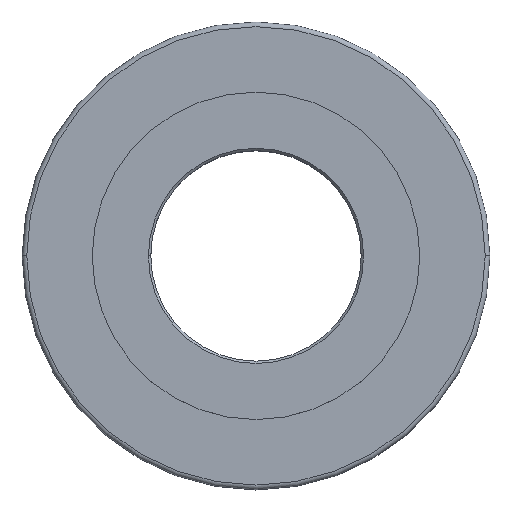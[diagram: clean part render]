
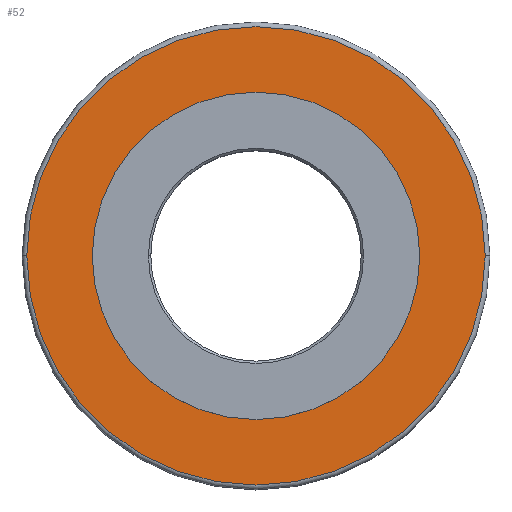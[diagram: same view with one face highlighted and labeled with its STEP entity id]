
A CAD part, top view. The second image highlights one B-rep face of the part: STEP entity #52.
In plain terms, the highlighted planar face has unit normal (0, 0, 1).
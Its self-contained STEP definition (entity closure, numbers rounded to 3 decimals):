
#13 = EDGE_CURVE ( 'NONE', #263, #327, #410, .T. ) ;
#28 = ORIENTED_EDGE ( 'NONE', *, *, #288, .T. ) ;
#32 = CIRCLE ( 'NONE', #310, 49. ) ;
#47 = FACE_BOUND ( 'NONE', #247, .T. ) ;
#52 = ADVANCED_FACE ( 'NONE', ( #47, #154 ), #257, .T. ) ;
#76 = ORIENTED_EDGE ( 'NONE', *, *, #463, .F. ) ;
#93 = AXIS2_PLACEMENT_3D ( 'NONE', #135, #271, #558 ) ;
#103 = AXIS2_PLACEMENT_3D ( 'NONE', #539, #120, #432 ) ;
#107 = EDGE_LOOP ( 'NONE', ( #28, #112 ) ) ;
#112 = ORIENTED_EDGE ( 'NONE', *, *, #433, .T. ) ;
#120 = DIRECTION ( 'NONE',  ( 0., 0., 1. ) ) ;
#135 = CARTESIAN_POINT ( 'NONE',  ( 0., 0., 30. ) ) ;
#144 = CARTESIAN_POINT ( 'NONE',  ( 0., 0., 30. ) ) ;
#154 = FACE_OUTER_BOUND ( 'NONE', #107, .T. ) ;
#161 = CIRCLE ( 'NONE', #482, 35. ) ;
#178 = VERTEX_POINT ( 'NONE', #317 ) ;
#188 = CIRCLE ( 'NONE', #93, 49. ) ;
#212 = VERTEX_POINT ( 'NONE', #560 ) ;
#227 = DIRECTION ( 'NONE',  ( 0., 0., 1. ) ) ;
#247 = EDGE_LOOP ( 'NONE', ( #453, #76 ) ) ;
#257 = PLANE ( 'NONE',  #103 ) ;
#263 = VERTEX_POINT ( 'NONE', #324 ) ;
#271 = DIRECTION ( 'NONE',  ( 0., 0., 1. ) ) ;
#288 = EDGE_CURVE ( 'NONE', #212, #178, #188, .T. ) ;
#310 = AXIS2_PLACEMENT_3D ( 'NONE', #326, #227, #334 ) ;
#317 = CARTESIAN_POINT ( 'NONE',  ( -49., 0., 30. ) ) ;
#324 = CARTESIAN_POINT ( 'NONE',  ( 35., 0., 30. ) ) ;
#326 = CARTESIAN_POINT ( 'NONE',  ( 0., 0., 30. ) ) ;
#327 = VERTEX_POINT ( 'NONE', #534 ) ;
#334 = DIRECTION ( 'NONE',  ( 1., 0., 0. ) ) ;
#373 = AXIS2_PLACEMENT_3D ( 'NONE', #393, #411, #413 ) ;
#379 = DIRECTION ( 'NONE',  ( 1., 0., 0. ) ) ;
#393 = CARTESIAN_POINT ( 'NONE',  ( 0., 0., 30. ) ) ;
#410 = CIRCLE ( 'NONE', #373, 35. ) ;
#411 = DIRECTION ( 'NONE',  ( 0., 0., 1. ) ) ;
#413 = DIRECTION ( 'NONE',  ( 1., 0., 0. ) ) ;
#432 = DIRECTION ( 'NONE',  ( 1., 0., 0. ) ) ;
#433 = EDGE_CURVE ( 'NONE', #178, #212, #32, .T. ) ;
#453 = ORIENTED_EDGE ( 'NONE', *, *, #13, .F. ) ;
#463 = EDGE_CURVE ( 'NONE', #327, #263, #161, .T. ) ;
#464 = DIRECTION ( 'NONE',  ( 0., 0., 1. ) ) ;
#482 = AXIS2_PLACEMENT_3D ( 'NONE', #144, #464, #379 ) ;
#534 = CARTESIAN_POINT ( 'NONE',  ( -35., 0., 30. ) ) ;
#539 = CARTESIAN_POINT ( 'NONE',  ( 0., 0., 30. ) ) ;
#558 = DIRECTION ( 'NONE',  ( 1., 0., 0. ) ) ;
#560 = CARTESIAN_POINT ( 'NONE',  ( 49., 0., 30. ) ) ;
